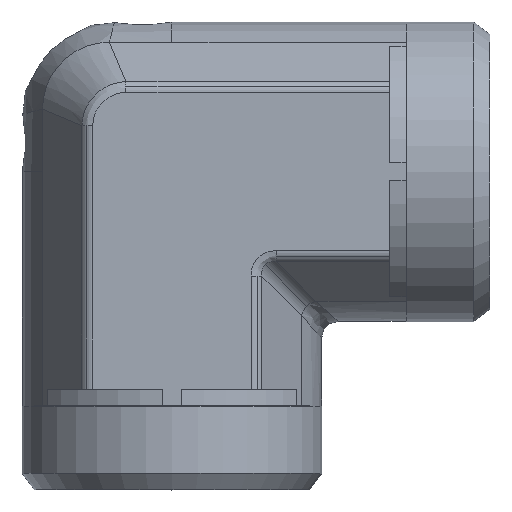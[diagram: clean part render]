
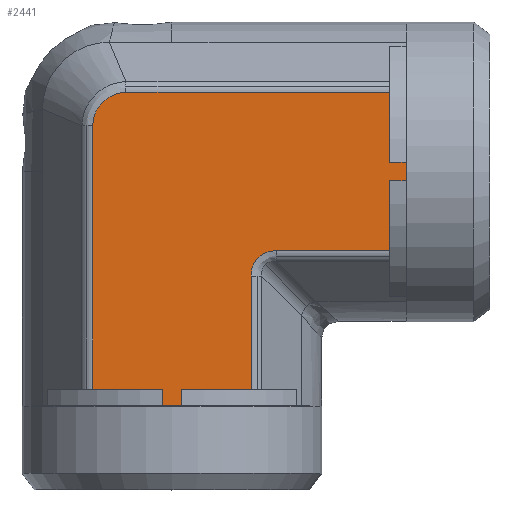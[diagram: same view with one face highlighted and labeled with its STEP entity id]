
A CAD part, top view. The second image highlights one B-rep face of the part: STEP entity #2441.
In plain terms, the highlighted planar face has unit normal (0, 0, 1) as drawn and (0, -1, 0) by its records, which use the part's own axes.
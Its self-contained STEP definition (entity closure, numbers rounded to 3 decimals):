
#361=CARTESIAN_POINT('',(7.985,-17.875,9.454));
#362=VERTEX_POINT('',#361);
#370=CARTESIAN_POINT('',(21.5,-17.875,9.454));
#371=VERTEX_POINT('',#370);
#372=CARTESIAN_POINT('',(7.985,-17.875,9.454));
#373=DIRECTION('',(1.0,0.0,0.0));
#374=VECTOR('',#373,13.515);
#375=LINE('',#372,#374);
#376=EDGE_CURVE('',#362,#371,#375,.T.);
#485=CARTESIAN_POINT('',(-13.954,-17.875,-5.501));
#486=VERTEX_POINT('',#485);
#494=CARTESIAN_POINT('',(-13.954,-17.875,26.));
#495=VERTEX_POINT('',#494);
#496=CARTESIAN_POINT('',(-13.954,-17.875,-5.501));
#497=DIRECTION('',(0.0,0.0,1.0));
#498=VECTOR('',#497,31.501);
#499=LINE('',#496,#498);
#500=EDGE_CURVE('',#486,#495,#499,.T.);
#692=CARTESIAN_POINT('',(23.5,-17.875,0.));
#693=VERTEX_POINT('',#692);
#1887=CARTESIAN_POINT('',(4.954,-17.875,26.));
#1888=VERTEX_POINT('',#1887);
#1889=CARTESIAN_POINT('',(-3.381,-17.875,26.));
#1890=VERTEX_POINT('',#1889);
#1891=CARTESIAN_POINT('',(4.954,-17.875,26.));
#1892=DIRECTION('',(-1.0,0.0,0.0));
#1893=VECTOR('',#1892,8.335);
#1894=LINE('',#1891,#1893);
#1895=EDGE_CURVE('',#1888,#1890,#1894,.T.);
#1946=CARTESIAN_POINT('',(-5.619,-17.875,26.));
#1947=VERTEX_POINT('',#1946);
#1948=CARTESIAN_POINT('',(-5.619,-17.875,26.));
#1949=DIRECTION('',(-1.0,0.0,0.0));
#1950=VECTOR('',#1949,8.335);
#1951=LINE('',#1948,#1950);
#1952=EDGE_CURVE('',#1947,#495,#1951,.T.);
#2010=CARTESIAN_POINT('',(-5.619,-17.875,28.0));
#2011=VERTEX_POINT('',#2010);
#2012=CARTESIAN_POINT('',(-5.619,-17.875,28.0));
#2013=DIRECTION('',(0.0,0.0,-1.0));
#2014=VECTOR('',#2013,2.);
#2015=LINE('',#2012,#2014);
#2016=EDGE_CURVE('',#2011,#1947,#2015,.T.);
#2033=CARTESIAN_POINT('',(-3.381,-17.875,28.0));
#2034=VERTEX_POINT('',#2033);
#2035=CARTESIAN_POINT('',(-3.381,-17.875,26.));
#2036=DIRECTION('',(0.0,0.0,1.0));
#2037=VECTOR('',#2036,2.);
#2038=LINE('',#2035,#2037);
#2039=EDGE_CURVE('',#1890,#2034,#2038,.T.);
#2315=CARTESIAN_POINT('',(-4.5,-17.875,28.0));
#2316=VERTEX_POINT('',#2315);
#2317=CARTESIAN_POINT('',(-4.5,-17.875,28.0));
#2318=DIRECTION('',(-1.0,0.0,0.0));
#2319=VECTOR('',#2318,1.119);
#2320=LINE('',#2317,#2319);
#2321=EDGE_CURVE('',#2316,#2011,#2320,.T.);
#2339=CARTESIAN_POINT('',(-4.5,-17.875,-3.175));
#2340=DIRECTION('',(0.0,-1.0,0.0));
#2341=DIRECTION('',(0.0,0.0,-1.0));
#2342=AXIS2_PLACEMENT_3D('',#2339,#2340,#2341);
#2343=PLANE('',#2342);
#2344=ORIENTED_EDGE('',*,*,#2016,.T.);
#2345=ORIENTED_EDGE('',*,*,#1952,.T.);
#2346=ORIENTED_EDGE('',*,*,#500,.F.);
#2347=CARTESIAN_POINT('',(-10.001,-17.875,-9.454));
#2348=VERTEX_POINT('',#2347);
#2349=CARTESIAN_POINT('',(-13.954,-17.875,-5.501));
#2350=CARTESIAN_POINT('',(-13.954,-17.875,-5.759));
#2351=CARTESIAN_POINT('',(-13.928,-17.875,-6.018));
#2352=CARTESIAN_POINT('',(-13.795,-17.875,-6.68));
#2353=CARTESIAN_POINT('',(-13.65,-17.875,-7.07));
#2354=CARTESIAN_POINT('',(-13.121,-17.875,-8.011));
#2355=CARTESIAN_POINT('',(-12.65,-17.875,-8.503));
#2356=CARTESIAN_POINT('',(-11.461,-17.875,-9.245));
#2357=CARTESIAN_POINT('',(-10.732,-17.875,-9.454));
#2358=CARTESIAN_POINT('',(-10.001,-17.875,-9.454));
#2359=B_SPLINE_CURVE_WITH_KNOTS('',3,(#2349,#2350,#2351,#2352,#2353,#2354,#2355,#2356,#2357,#2358),.UNSPECIFIED.,.F.,.U.,(4,2,2,2,4),(-6.173,-5.402,-4.167,-2.191,0.0),.UNSPECIFIED.);
#2360=EDGE_CURVE('',#2348,#486,#2359,.F.);
#2361=ORIENTED_EDGE('',*,*,#2360,.F.);
#2362=CARTESIAN_POINT('',(21.5,-17.875,-9.454));
#2363=VERTEX_POINT('',#2362);
#2364=CARTESIAN_POINT('',(21.5,-17.875,-9.454));
#2365=DIRECTION('',(-1.0,0.0,0.0));
#2366=VECTOR('',#2365,31.501);
#2367=LINE('',#2364,#2366);
#2368=EDGE_CURVE('',#2363,#2348,#2367,.T.);
#2369=ORIENTED_EDGE('',*,*,#2368,.F.);
#2370=CARTESIAN_POINT('',(21.5,-17.875,-1.119));
#2371=VERTEX_POINT('',#2370);
#2372=CARTESIAN_POINT('',(21.5,-17.875,-9.454));
#2373=DIRECTION('',(0.0,0.0,1.0));
#2374=VECTOR('',#2373,8.335);
#2375=LINE('',#2372,#2374);
#2376=EDGE_CURVE('',#2363,#2371,#2375,.T.);
#2377=ORIENTED_EDGE('',*,*,#2376,.T.);
#2378=CARTESIAN_POINT('',(23.5,-17.875,-1.119));
#2379=VERTEX_POINT('',#2378);
#2380=CARTESIAN_POINT('',(21.5,-17.875,-1.119));
#2381=DIRECTION('',(1.0,0.0,0.0));
#2382=VECTOR('',#2381,2.);
#2383=LINE('',#2380,#2382);
#2384=EDGE_CURVE('',#2371,#2379,#2383,.T.);
#2385=ORIENTED_EDGE('',*,*,#2384,.T.);
#2386=CARTESIAN_POINT('',(23.5,-17.875,-1.119));
#2387=DIRECTION('',(0.0,0.0,1.0));
#2388=VECTOR('',#2387,1.119);
#2389=LINE('',#2386,#2388);
#2390=EDGE_CURVE('',#2379,#693,#2389,.T.);
#2391=ORIENTED_EDGE('',*,*,#2390,.T.);
#2392=CARTESIAN_POINT('',(23.5,-17.875,1.119));
#2393=VERTEX_POINT('',#2392);
#2394=CARTESIAN_POINT('',(23.5,-17.875,0.));
#2395=DIRECTION('',(0.0,0.0,1.0));
#2396=VECTOR('',#2395,1.119);
#2397=LINE('',#2394,#2396);
#2398=EDGE_CURVE('',#693,#2393,#2397,.T.);
#2399=ORIENTED_EDGE('',*,*,#2398,.T.);
#2400=CARTESIAN_POINT('',(21.5,-17.875,1.119));
#2401=VERTEX_POINT('',#2400);
#2402=CARTESIAN_POINT('',(23.5,-17.875,1.119));
#2403=DIRECTION('',(-1.0,0.0,0.0));
#2404=VECTOR('',#2403,2.);
#2405=LINE('',#2402,#2404);
#2406=EDGE_CURVE('',#2393,#2401,#2405,.T.);
#2407=ORIENTED_EDGE('',*,*,#2406,.T.);
#2408=CARTESIAN_POINT('',(21.5,-17.875,1.119));
#2409=DIRECTION('',(0.0,0.0,1.0));
#2410=VECTOR('',#2409,8.335);
#2411=LINE('',#2408,#2410);
#2412=EDGE_CURVE('',#2401,#371,#2411,.T.);
#2413=ORIENTED_EDGE('',*,*,#2412,.T.);
#2414=ORIENTED_EDGE('',*,*,#376,.F.);
#2415=CARTESIAN_POINT('',(4.954,-17.875,12.485));
#2416=VERTEX_POINT('',#2415);
#2417=CARTESIAN_POINT('',(8.996,-17.875,13.496));
#2418=DIRECTION('',(0.,-1.,0.));
#2419=DIRECTION('',(-0.707,0.,-0.707));
#2420=AXIS2_PLACEMENT_3D('',#2417,#2418,#2419);
#2421=ELLIPSE('',#2420,4.518,3.5);
#2422=EDGE_CURVE('',#2416,#362,#2421,.T.);
#2423=ORIENTED_EDGE('',*,*,#2422,.F.);
#2424=CARTESIAN_POINT('',(4.954,-17.875,26.));
#2425=DIRECTION('',(0.0,0.0,-1.0));
#2426=VECTOR('',#2425,13.515);
#2427=LINE('',#2424,#2426);
#2428=EDGE_CURVE('',#1888,#2416,#2427,.T.);
#2429=ORIENTED_EDGE('',*,*,#2428,.F.);
#2430=ORIENTED_EDGE('',*,*,#1895,.T.);
#2431=ORIENTED_EDGE('',*,*,#2039,.T.);
#2432=CARTESIAN_POINT('',(-3.381,-17.875,28.0));
#2433=DIRECTION('',(-1.0,0.0,0.0));
#2434=VECTOR('',#2433,1.119);
#2435=LINE('',#2432,#2434);
#2436=EDGE_CURVE('',#2034,#2316,#2435,.T.);
#2437=ORIENTED_EDGE('',*,*,#2436,.T.);
#2438=ORIENTED_EDGE('',*,*,#2321,.T.);
#2439=EDGE_LOOP('',(#2344,#2345,#2346,#2361,#2369,#2377,#2385,#2391,#2399,#2407,#2413,#2414,#2423,#2429,#2430,#2431,#2437,#2438));
#2440=FACE_OUTER_BOUND('',#2439,.T.);
#2441=ADVANCED_FACE('',(#2440),#2343,.T.);
